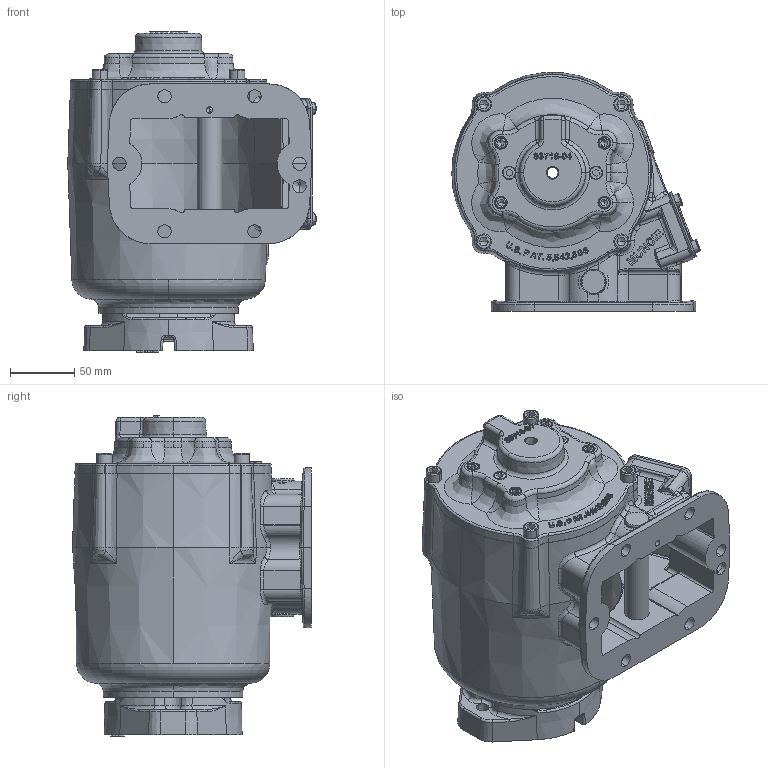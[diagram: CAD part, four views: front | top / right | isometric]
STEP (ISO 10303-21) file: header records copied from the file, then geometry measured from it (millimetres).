
FILE_DESCRIPTION (( 'STEP AP203' ), '1' );
FILE_NAME ('CS6S-A67XX-E1RX.STEP', '2023-04-14T15:20:13', ( '' ), ( '' ), 'SwSTEP 2.0', 'SolidWorks 2021', '' );
FILE_SCHEMA (( 'CONFIG_CONTROL_DESIGN' ));
Length unit declared in the file: millimetre
Products named in the file (19): 01T37073; CS6S-A67XX-E1RX; 11T37790; 19T41118; 14T39141; 16T41119; 12T34003; 19T34717; 19T35237; 14TA3997; 07T37071; 12T35949; 19T36082; 25T21684; 15T36717; 10T21017; 27T36173_Free Length; 12T36751; 19T36174
Assembly tree (35 placements, depth 3):
  CS6S-A67XX-E1RX
    01T37073
    16T41119
    19T41118  x4
    15T36717
    12T34003
    19T35237  x4
    10T21017
    12T36751
    07T37071
    12T35949  x2
    27T36173_Free Length  x4
    19T36174  x4
    25T21684  x2
    19T34717  x4
    19T36082
    14TA3997
      14T39141
      11T37790
Bounding box: 192.82 x 185.25 x 249.19 mm (x, y, z)
Volume: 1323954.8 mm3; surface area: 404037.2 mm2
Topology: 34 solids, 34 shells, 2456 faces, 6157 edges, 3767 vertices
Faces by surface type: bspline 796, plane 685, cylinder 487, cone 308, torus 148, sphere 32
Entity records: 131554 total; most frequent: CARTESIAN_POINT 83883, ORIENTED_EDGE 10648, DIRECTION 7258, EDGE_CURVE 5324, VERTEX_POINT 3320, AXIS2_PLACEMENT_3D 2626, EDGE_LOOP 2314, FACE_OUTER_BOUND 2121
